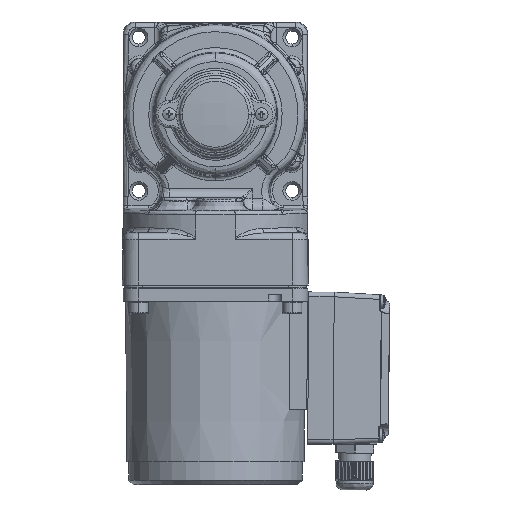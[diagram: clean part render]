
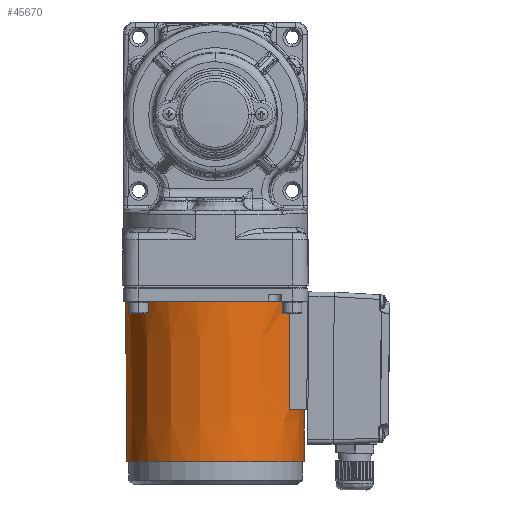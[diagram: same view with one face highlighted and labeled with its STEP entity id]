
A CAD part, left-side view. The second image highlights one B-rep face of the part: STEP entity #45670.
In plain terms, the highlighted conical face has half-angle 0.47 degrees and reference radius 38.947 mm.
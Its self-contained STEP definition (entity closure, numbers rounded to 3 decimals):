
#780 = LINE ( 'NONE', #62225, #77308 ) ;
#2671 = VERTEX_POINT ( 'NONE', #45501 ) ;
#4418 = DIRECTION ( 'NONE',  ( 0., 0., -1. ) ) ;
#4438 = DIRECTION ( 'NONE',  ( 0., -1., 0. ) ) ;
#4528 = CARTESIAN_POINT ( 'NONE',  ( 0., 69.5, 0. ) ) ;
#5757 = ORIENTED_EDGE ( 'NONE', *, *, #44216, .T. ) ;
#10664 = AXIS2_PLACEMENT_3D ( 'NONE', #4528, #4438, #4418 ) ;
#11506 = ORIENTED_EDGE ( 'NONE', *, *, #59826, .T. ) ;
#16516 = AXIS2_PLACEMENT_3D ( 'NONE', #51721, #52438, #52014 ) ;
#18985 = CARTESIAN_POINT ( 'NONE',  ( 22., 0., 32.138 ) ) ;
#21029 =( BOUNDED_CURVE ( )  B_SPLINE_CURVE ( 3, ( #80202, #80280, #73154, #73056 ),
 .UNSPECIFIED., .F., .F. ) 
 B_SPLINE_CURVE_WITH_KNOTS ( ( 4, 4 ),
 ( 3.781, 3.785 ),
 .UNSPECIFIED. ) 
 CURVE ( )  GEOMETRIC_REPRESENTATION_ITEM ( )  RATIONAL_B_SPLINE_CURVE ( ( 1., 1., 1., 1. ) ) 
 REPRESENTATION_ITEM ( '' )  );
#22010 = DIRECTION ( 'NONE',  ( 0., 0., -1. ) ) ;
#22104 = DIRECTION ( 'NONE',  ( 0., 1., 0. ) ) ;
#22139 = EDGE_CURVE ( 'NONE', #56134, #77423, #56830, .T. ) ;
#22168 = CARTESIAN_POINT ( 'NONE',  ( 0., 0., 0. ) ) ;
#24755 = CIRCLE ( 'NONE', #49980, 38.561 ) ;
#33979 = VECTOR ( 'NONE', #65182, 1000. ) ;
#34422 = ORIENTED_EDGE ( 'NONE', *, *, #58939, .T. ) ;
#38806 = VERTEX_POINT ( 'NONE', #52623 ) ;
#39467 = ORIENTED_EDGE ( 'NONE', *, *, #22139, .T. ) ;
#44100 = EDGE_CURVE ( 'NONE', #38806, #56134, #21029, .T. ) ;
#44216 = EDGE_CURVE ( 'NONE', #44515, #38806, #24755, .T. ) ;
#44515 = VERTEX_POINT ( 'NONE', #50627 ) ;
#45501 = CARTESIAN_POINT ( 'NONE',  ( 0., 69.5, 38.377 ) ) ;
#45670 = ADVANCED_FACE ( 'NONE', ( #51288 ), #62085, .T. ) ;
#45914 = CARTESIAN_POINT ( 'NONE',  ( 0., 0., -38.947 ) ) ;
#49980 = AXIS2_PLACEMENT_3D ( 'NONE', #59102, #59085, #59014 ) ;
#50627 = CARTESIAN_POINT ( 'NONE',  ( 0., 47., 38.561 ) ) ;
#51288 = FACE_OUTER_BOUND ( 'NONE', #62307, .T. ) ;
#51721 = CARTESIAN_POINT ( 'NONE',  ( 0., 0., 0. ) ) ;
#52014 = DIRECTION ( 'NONE',  ( 0., 0., -1. ) ) ;
#52438 = DIRECTION ( 'NONE',  ( 0., -1., 0. ) ) ;
#52623 = CARTESIAN_POINT ( 'NONE',  ( 21.59, 47., 31.951 ) ) ;
#52766 = CIRCLE ( 'NONE', #10664, 38.377 ) ;
#54727 = LINE ( 'NONE', #64872, #33979 ) ;
#55204 = CARTESIAN_POINT ( 'NONE',  ( 0., 69.5, -38.377 ) ) ;
#56134 = VERTEX_POINT ( 'NONE', #18985 ) ;
#56830 = CIRCLE ( 'NONE', #60601, 38.947 ) ;
#58939 = EDGE_CURVE ( 'NONE', #2671, #44515, #54727, .T. ) ;
#59014 = DIRECTION ( 'NONE',  ( 0., 0., -1. ) ) ;
#59085 = DIRECTION ( 'NONE',  ( 0., 1., 0. ) ) ;
#59102 = CARTESIAN_POINT ( 'NONE',  ( 0., 47., 0. ) ) ;
#59826 = EDGE_CURVE ( 'NONE', #71057, #2671, #52766, .T. ) ;
#60364 = EDGE_CURVE ( 'NONE', #71057, #77423, #780, .T. ) ;
#60601 = AXIS2_PLACEMENT_3D ( 'NONE', #22168, #22104, #22010 ) ;
#62039 = DIRECTION ( 'NONE',  ( 0., -1., -0.008 ) ) ;
#62085 = CONICAL_SURFACE ( 'NONE', #16516, 38.947, 0.008 ) ;
#62225 = CARTESIAN_POINT ( 'NONE',  ( 0., 0., -38.947 ) ) ;
#62307 = EDGE_LOOP ( 'NONE', ( #11506, #34422, #5757, #62571, #39467, #83821 ) ) ;
#62571 = ORIENTED_EDGE ( 'NONE', *, *, #44100, .T. ) ;
#64872 = CARTESIAN_POINT ( 'NONE',  ( 0., 0., 38.947 ) ) ;
#65182 = DIRECTION ( 'NONE',  ( 0., -1., 0.008 ) ) ;
#71057 = VERTEX_POINT ( 'NONE', #55204 ) ;
#73056 = CARTESIAN_POINT ( 'NONE',  ( 22., 0., 32.138 ) ) ;
#73154 = CARTESIAN_POINT ( 'NONE',  ( 21.863, 15.712, 32.076 ) ) ;
#77308 = VECTOR ( 'NONE', #62039, 1000. ) ;
#77423 = VERTEX_POINT ( 'NONE', #45914 ) ;
#80202 = CARTESIAN_POINT ( 'NONE',  ( 21.59, 47., 31.951 ) ) ;
#80280 = CARTESIAN_POINT ( 'NONE',  ( 21.726, 31.379, 32.013 ) ) ;
#83821 = ORIENTED_EDGE ( 'NONE', *, *, #60364, .F. ) ;
